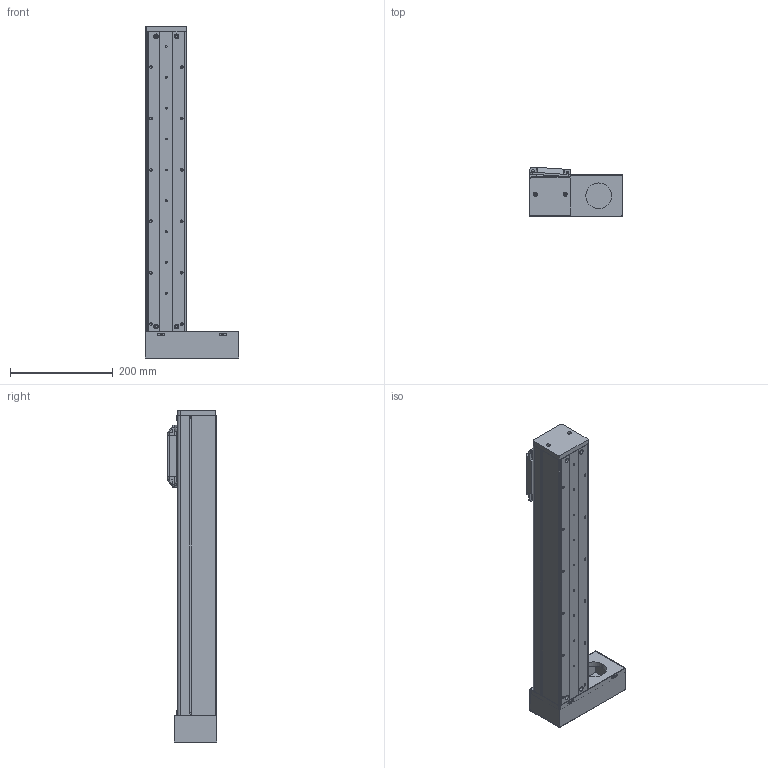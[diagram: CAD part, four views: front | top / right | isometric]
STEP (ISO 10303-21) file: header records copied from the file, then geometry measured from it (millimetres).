
FILE_DESCRIPTION (( 'STEP AP214' ), '1' );
FILE_NAME ('CF80-C-400-FWL.STEP', '2019-12-03T02:12:03', ( '微软用户' ), ( '微软中国' ), 'SwSTEP 2.0', 'SolidWorks 2016', '' );
FILE_SCHEMA (( 'AUTOMOTIVE_DESIGN' ));
Length unit declared in the file: millimetre
Products named in the file (14): CF80耜啣; 賑雄輸裔啣; CFN80傻嘐隅釱; CF80盓傅釱; EGR15絳寢-400; EGW15CA賑輸; CF80墙板-400; CF80菁釱-400; CF80-C-400-FWL; CF80-酘殏萇儂啣; 賑雄輸; CF80肮祭謫欶; 詩湍揤啣; CF80詩湍-400
Assembly tree (15 placements, depth 2):
  CF80-C-400-FWL
    CF80菁釱-400
    CF80墙板-400  x2
    EGW15CA賑輸
    EGR15絳寢-400
    CF80盓傅釱
    CFN80傻嘐隅釱
    賑雄輸裔啣
    CF80耜啣
    CF80詩湍-400
    詩湍揤啣  x2
    CF80肮祭謫欶
    賑雄輸
    CF80-酘殏萇儂啣
Bounding box: 182 x 95.88 x 646 mm (x, y, z)
Volume: 1392116.4 mm3; surface area: 708725.2 mm2
Topology: 15 solids, 15 shells, 772 faces, 2180 edges, 1440 vertices
Faces by surface type: plane 399, cylinder 345, cone 16, bspline 12
Entity records: 25887 total; most frequent: CARTESIAN_POINT 5923, ORIENTED_EDGE 4006, DIRECTION 3967, EDGE_CURVE 2003, AXIS2_PLACEMENT_3D 1374, VERTEX_POINT 1330, LINE 1219, VECTOR 1219
